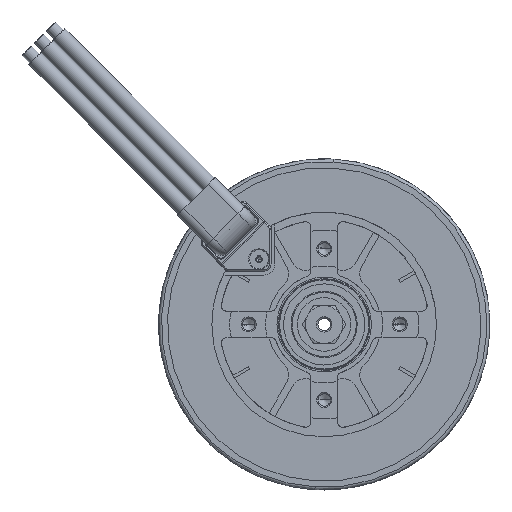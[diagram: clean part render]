
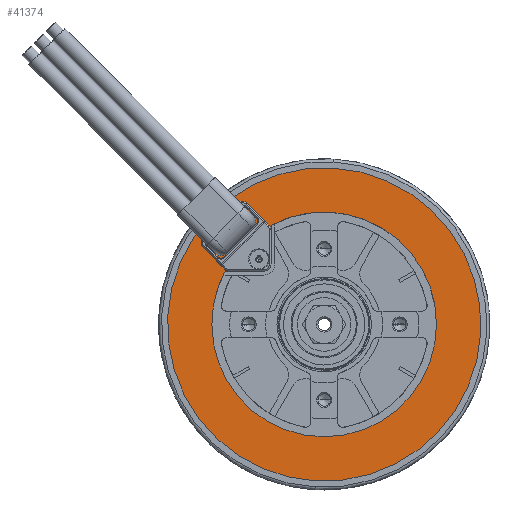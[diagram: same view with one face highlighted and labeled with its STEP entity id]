
A CAD part, front view. The second image highlights one B-rep face of the part: STEP entity #41374.
In plain terms, the highlighted planar face has unit normal (0, -1, 0).
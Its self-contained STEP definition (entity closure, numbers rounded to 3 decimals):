
#3118 = DIRECTION ( 'NONE',  ( 0., 1., 0. ) ) ;
#3901 = VERTEX_POINT ( 'NONE', #29184 ) ;
#6791 = EDGE_CURVE ( 'NONE', #18348, #20195, #58575, .T. ) ;
#10524 = DIRECTION ( 'NONE',  ( 0., 1., 0. ) ) ;
#11103 = EDGE_LOOP ( 'NONE', ( #74872, #67055 ) ) ;
#15921 = AXIS2_PLACEMENT_3D ( 'NONE', #49994, #50501, #81831 ) ;
#16338 = ORIENTED_EDGE ( 'NONE', *, *, #34075, .T. ) ;
#17616 = DIRECTION ( 'NONE',  ( 0., 1., 0. ) ) ;
#17756 = PLANE ( 'NONE',  #63895 ) ;
#17774 = CARTESIAN_POINT ( 'NONE',  ( 0., -22., 0. ) ) ;
#18348 = VERTEX_POINT ( 'NONE', #86008 ) ;
#18623 = DIRECTION ( 'NONE',  ( 1., 0., 0. ) ) ;
#20195 = VERTEX_POINT ( 'NONE', #92091 ) ;
#29184 = CARTESIAN_POINT ( 'NONE',  ( 29.75, -22., 0. ) ) ;
#31427 = CIRCLE ( 'NONE', #82283, 29.75 ) ;
#31648 = DIRECTION ( 'NONE',  ( -1., 0., 0. ) ) ;
#34075 = EDGE_CURVE ( 'NONE', #3901, #95554, #94461, .T. ) ;
#41328 = CIRCLE ( 'NONE', #79051, 42.65 ) ;
#41374 = ADVANCED_FACE ( 'NONE', ( #88055, #58261 ), #17756, .F. ) ;
#43702 = AXIS2_PLACEMENT_3D ( 'NONE', #89384, #3118, #51393 ) ;
#48934 = EDGE_LOOP ( 'NONE', ( #16338, #64970 ) ) ;
#49063 = CARTESIAN_POINT ( 'NONE',  ( 0., -22., 0. ) ) ;
#49077 = DIRECTION ( 'NONE',  ( 0., -1., 0. ) ) ;
#49994 = CARTESIAN_POINT ( 'NONE',  ( 0., -22., 0. ) ) ;
#50501 = DIRECTION ( 'NONE',  ( 0., -1., 0. ) ) ;
#51393 = DIRECTION ( 'NONE',  ( 1., 0., 0. ) ) ;
#58261 = FACE_OUTER_BOUND ( 'NONE', #11103, .T. ) ;
#58575 = CIRCLE ( 'NONE', #15921, 42.65 ) ;
#60600 = EDGE_CURVE ( 'NONE', #95554, #3901, #31427, .T. ) ;
#61365 = EDGE_CURVE ( 'NONE', #20195, #18348, #41328, .T. ) ;
#63895 = AXIS2_PLACEMENT_3D ( 'NONE', #49063, #10524, #80372 ) ;
#64970 = ORIENTED_EDGE ( 'NONE', *, *, #60600, .T. ) ;
#67055 = ORIENTED_EDGE ( 'NONE', *, *, #6791, .T. ) ;
#67559 = CARTESIAN_POINT ( 'NONE',  ( -29.75, -22., 0. ) ) ;
#74872 = ORIENTED_EDGE ( 'NONE', *, *, #61365, .T. ) ;
#79051 = AXIS2_PLACEMENT_3D ( 'NONE', #17774, #49077, #31648 ) ;
#80372 = DIRECTION ( 'NONE',  ( -1., 0., 0. ) ) ;
#81831 = DIRECTION ( 'NONE',  ( -1., 0., 0. ) ) ;
#82283 = AXIS2_PLACEMENT_3D ( 'NONE', #87416, #17616, #18623 ) ;
#86008 = CARTESIAN_POINT ( 'NONE',  ( 2.385, -22., 42.583 ) ) ;
#87416 = CARTESIAN_POINT ( 'NONE',  ( 0., -22., 0. ) ) ;
#88055 = FACE_BOUND ( 'NONE', #48934, .T. ) ;
#89384 = CARTESIAN_POINT ( 'NONE',  ( 0., -22., 0. ) ) ;
#92091 = CARTESIAN_POINT ( 'NONE',  ( -2.385, -22., -42.583 ) ) ;
#94461 = CIRCLE ( 'NONE', #43702, 29.75 ) ;
#95554 = VERTEX_POINT ( 'NONE', #67559 ) ;
